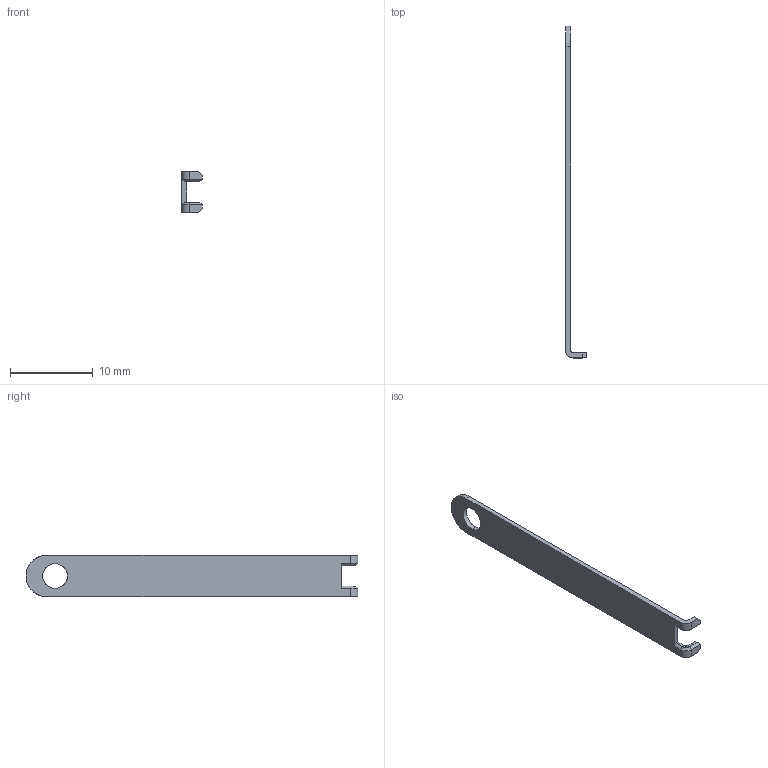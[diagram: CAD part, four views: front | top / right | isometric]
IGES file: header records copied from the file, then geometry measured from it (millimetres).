
Start section: SolidWorks IGES file using analytic representation for surfaces
Global section: file name: C:\3dwork\imaji\MHF Accessory Web\90411C\90411C UNMATING TOOL R1 IGES ALL.IGS; native system: SolidWorks 2020; preprocessor: SolidWorks 2020; author: 83144; date: 230207.091816; units: millimetre
Bounding box: 2.5 x 40 x 5 mm (x, y, z)
Surface area: 441.1 mm2 (no closed solid volume)
Topology: 0 solids, 0 shells, 31 faces, 282 edges, 282 vertices
Faces by surface type: bspline 21, revolution 10
